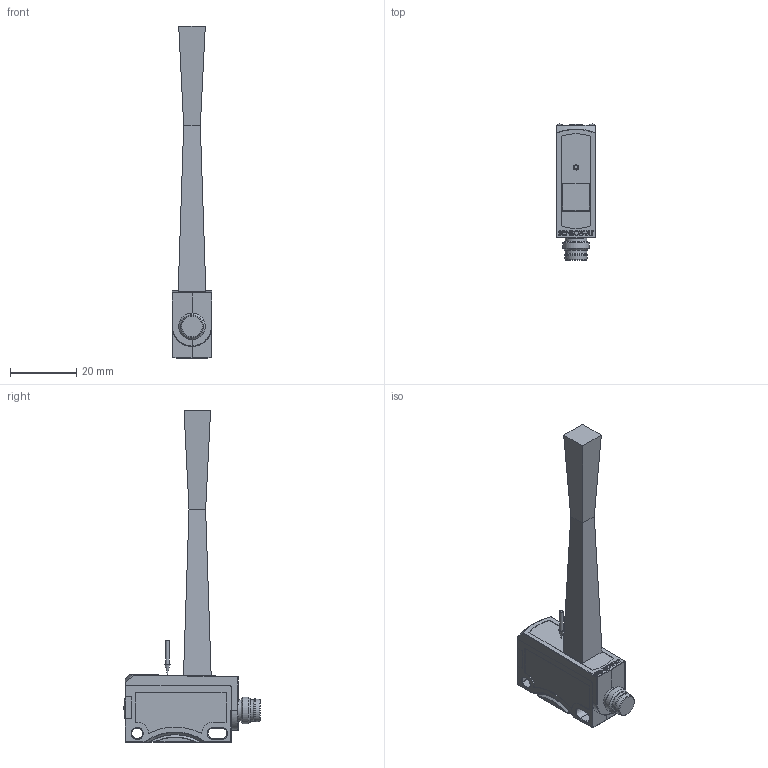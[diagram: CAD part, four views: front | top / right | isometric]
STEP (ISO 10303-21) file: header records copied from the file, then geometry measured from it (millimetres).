
FILE_DESCRIPTION(/* description */ (''),/* implementation_level */ '2;1');
FILE_NAME(/* name */ '604-41000_FT 25-RA-60-PSU-M4M.stp',/* time_stamp */ '2023-10-05T13:13:09+02:00',/* author */ ('Sandra.Stahl'),/* organization */ (''),/* preprocessor_version */ 'ST-DEVELOPER v19.2',/* originating_system */ 'Autodesk Inventor 2023',/* authorisation */ '');
FILE_SCHEMA (('AUTOMOTIVE_DESIGN { 1 0 10303 214 3 1 1 }'));
Length unit declared in the file: millimetre
Products named in the file (1): GH-ENG-0041140_Vereinfachen_1
Bounding box: 12 x 41 x 99.97 mm (x, y, z)
Volume: 11466 mm3; surface area: 5348.1 mm2
Topology: 3 solids, 3 shells, 270 faces, 641 edges, 383 vertices
Faces by surface type: plane 121, cylinder 72, bspline 27, sphere 18, cone 17, torus 15
Full cylindrical faces by diameter (mm): 1 x1, 1.215 x1, 1.422 x1, 4.1 x1, 6.5 x2, 6.9 x1, 8 x1
Entity records: 8790 total; most frequent: CARTESIAN_POINT 2369, DIRECTION 1262, ORIENTED_EDGE 1248, EDGE_CURVE 624, AXIS2_PLACEMENT_3D 454, VERTEX_POINT 382, LINE 354, VECTOR 354
